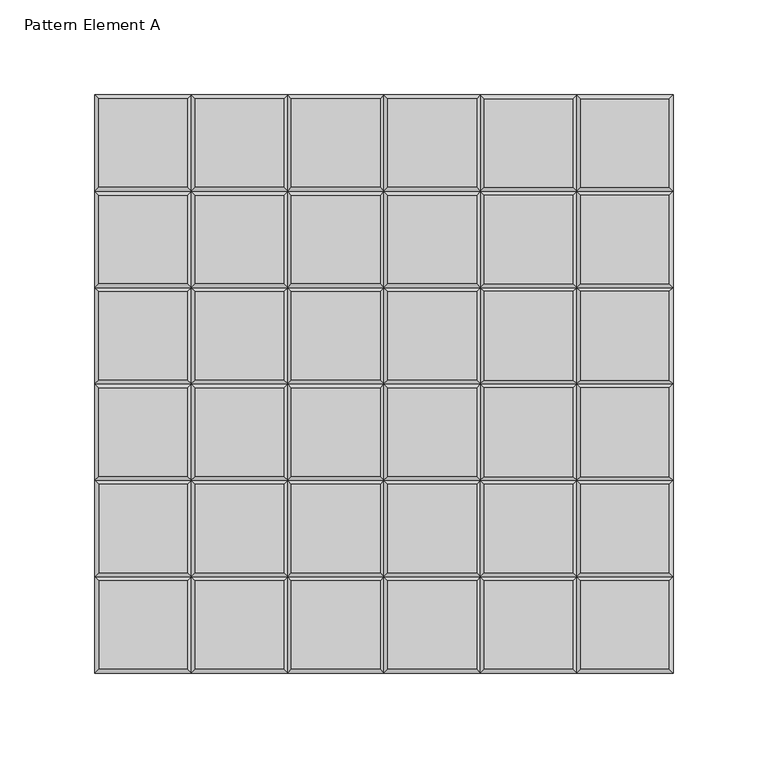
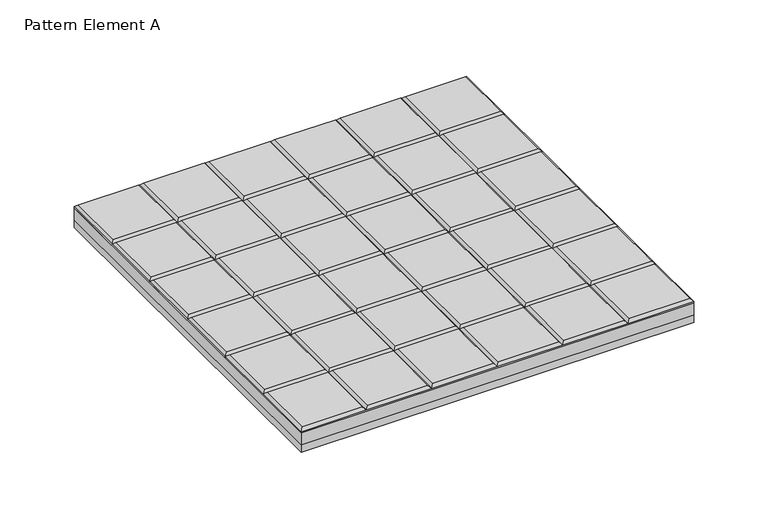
"""IFC4 building model written with IfcOpenShell, lengths in millimetres: proxy geometry, FilzFelt_Waffle_Manufacturing Drawing : Pattern Element A."""

from ifc_helpers import new_model, si_unit, frame, origin, origin_with_axes, place, context, project, spatial, polyline, outline, extrude, faceted_brep, source, transform, mapped, element, save


def pattern_element_a_fabd5e50(model_context):
    return source(origin(), model_context, "Body", "SolidModel", [
        faceted_brep([(-150.4, -48.8, 19.0), (-152.4, -50.8, 17.0), (-101.6, -50.8, 17.0), (-103.6, -48.8, 19.0), (-52.8, -48.8, 19.0), (-99.6, -48.8, 19.0), (-50.8, -50.8, 17.0), (-2.0, -48.8, 19.0), (-48.8, -48.8, 19.0), (0.0, -50.8, 17.0), (48.8, -48.8, 19.0), (2.0, -48.8, 19.0), (50.8, -50.8, 17.0), (-150.4, 2.0, 19.0), (-152.4, 0.0, 17.0), (-101.6, 0.0, 17.0), (-103.6, 2.0, 19.0), (-52.8, 2.0, 19.0), (-99.6, 2.0, 19.0), (-50.8, 0.0, 17.0), (-2.0, 2.0, 19.0), (-48.8, 2.0, 19.0), (0.0, 0.0, 17.0), (48.8, 2.0, 19.0), (2.0, 2.0, 19.0), (50.8, 0.0, 17.0), (-150.4, -2.0, 19.0), (-103.6, -2.0, 19.0), (-99.6, -2.0, 19.0), (-52.8, -2.0, 19.0), (-48.8, -2.0, 19.0), (-2.0, -2.0, 19.0), (2.0, -2.0, 19.0), (48.8, -2.0, 19.0), (-150.4, 52.8, 19.0), (-152.4, 50.8, 17.0), (-101.6, 50.8, 17.0), (-103.6, 52.8, 19.0), (-52.8, 52.8, 19.0), (-99.6, 52.8, 19.0), (-50.8, 50.8, 17.0), (-2.0, 52.8, 19.0), (-48.8, 52.8, 19.0), (0.0, 50.8, 17.0), (48.8, 52.8, 19.0), (2.0, 52.8, 19.0), (50.8, 50.8, 17.0), (-150.4, 48.8, 19.0), (-103.6, 48.8, 19.0), (-99.6, 48.8, 19.0), (-52.8, 48.8, 19.0), (-48.8, 48.8, 19.0), (-2.0, 48.8, 19.0), (2.0, 48.8, 19.0), (48.8, 48.8, 19.0), (-150.4, 103.6, 19.0), (-152.4, 101.6, 17.0), (-101.6, 101.6, 17.0), (-103.6, 103.6, 19.0), (-52.8, 103.6, 19.0), (-99.6, 103.6, 19.0), (-50.8, 101.6, 17.0), (-2.0, 103.6, 19.0), (-48.8, 103.6, 19.0), (0.0, 101.6, 17.0), (48.8, 103.6, 19.0), (2.0, 103.6, 19.0), (50.8, 101.6, 17.0), (-150.4, 99.6, 19.0), (-103.6, 99.6, 19.0), (-99.6, 99.6, 19.0), (-52.8, 99.6, 19.0), (-48.8, 99.6, 19.0), (-2.0, 99.6, 19.0), (2.0, 99.6, 19.0), (48.8, 99.6, 19.0), (-52.8, 150.4, 19.0), (-99.6, 150.4, 19.0), (-2.0, 150.4, 19.0), (-48.8, 150.4, 19.0), (48.8, 150.4, 19.0), (2.0, 150.4, 19.0), (-150.4, 150.4, 19.0), (-103.6, 150.4, 19.0), (50.8, 152.4, 16.0), (50.8, -50.8, 16.0), (-152.4, -50.8, 16.0), (-152.4, 152.4, 16.0), (50.8, 152.4, 17.0), (-152.4, 152.4, 17.0), (-101.6, 152.4, 17.0), (-50.8, 152.4, 17.0), (0.0, 152.4, 17.0)], [[[0, 1, 2, 3]], [[4, 5, 2, 6]], [[7, 8, 6, 9]], [[10, 11, 9, 12]], [[13, 14, 15, 16]], [[17, 18, 15, 19]], [[20, 21, 19, 22]], [[23, 24, 22, 25]], [[14, 26, 27, 15]], [[28, 29, 19, 15]], [[30, 31, 22, 19]], [[32, 33, 25, 22]], [[34, 35, 36, 37]], [[38, 39, 36, 40]], [[41, 42, 40, 43]], [[44, 45, 43, 46]], [[35, 47, 48, 36]], [[49, 50, 40, 36]], [[51, 52, 43, 40]], [[53, 54, 46, 43]], [[55, 56, 57, 58]], [[59, 60, 57, 61]], [[62, 63, 61, 64]], [[65, 66, 64, 67]], [[56, 68, 69, 57]], [[70, 71, 61, 57]], [[72, 73, 64, 61]], [[74, 75, 67, 64]], [[29, 28, 5, 4]], [[31, 30, 8, 7]], [[33, 32, 11, 10]], [[50, 49, 18, 17]], [[52, 51, 21, 20]], [[54, 53, 24, 23]], [[60, 59, 76, 77]], [[63, 62, 78, 79]], [[66, 65, 80, 81]], [[71, 70, 39, 38]], [[73, 72, 42, 41]], [[75, 74, 45, 44]], [[82, 55, 58, 83]], [[26, 0, 3, 27]], [[47, 13, 16, 48]], [[68, 34, 37, 69]], [[84, 85, 86, 87]], [[85, 84, 88, 67, 46, 25, 12]], [[86, 85, 12, 9, 6, 2, 1]], [[87, 86, 1, 14, 35, 56, 89]], [[84, 87, 89, 90, 91, 92, 88]], [[0, 26, 14, 1]], [[13, 47, 35, 14]], [[34, 68, 56, 35]], [[82, 89, 56, 55]], [[77, 76, 91, 90]], [[79, 78, 92, 91]], [[81, 80, 88, 92]], [[89, 82, 83, 90]], [[15, 2, 5, 28]], [[36, 15, 18, 49]], [[90, 57, 60, 77]], [[57, 36, 39, 70]], [[2, 15, 27, 3]], [[15, 36, 48, 16]], [[57, 90, 83, 58]], [[36, 57, 69, 37]], [[19, 6, 8, 30]], [[40, 19, 21, 51]], [[91, 61, 63, 79]], [[61, 40, 42, 72]], [[6, 19, 29, 4]], [[19, 40, 50, 17]], [[61, 91, 76, 59]], [[40, 61, 71, 38]], [[22, 9, 11, 32]], [[43, 22, 24, 53]], [[92, 64, 66, 81]], [[64, 43, 45, 74]], [[9, 22, 31, 7]], [[22, 43, 52, 20]], [[64, 92, 78, 62]], [[43, 64, 73, 41]], [[33, 10, 12, 25]], [[54, 23, 25, 46]], [[75, 44, 46, 67]], [[80, 65, 67, 88]]]),
        faceted_brep([(150.4, -150.4, 19.0), (152.4, -152.4, 17.0), (152.4, -101.6, 17.0), (150.4, -103.6, 19.0), (152.4, 152.4, 17.0), (150.4, 150.4, 19.0), (150.4, 103.6, 19.0), (152.4, 101.6, 17.0), (150.4, -52.8, 19.0), (150.4, -99.6, 19.0), (152.4, -50.8, 17.0), (150.4, -2.0, 19.0), (150.4, -48.8, 19.0), (152.4, 0.0, 17.0), (150.4, 48.8, 19.0), (150.4, 2.0, 19.0), (152.4, 50.8, 17.0), (150.4, 99.6, 19.0), (150.4, 52.8, 19.0), (103.6, -150.4, 19.0), (101.6, -152.4, 17.0), (-150.4, -150.4, 19.0), (-152.4, -152.4, 17.0), (-101.6, -152.4, 17.0), (-103.6, -150.4, 19.0), (-52.8, -150.4, 19.0), (-99.6, -150.4, 19.0), (-50.8, -152.4, 17.0), (-2.0, -150.4, 19.0), (-48.8, -150.4, 19.0), (0.0, -152.4, 17.0), (48.8, -150.4, 19.0), (2.0, -150.4, 19.0), (50.8, -152.4, 17.0), (99.6, -150.4, 19.0), (52.8, -150.4, 19.0), (-150.4, -103.6, 19.0), (-152.4, -101.6, 17.0), (-150.4, -99.6, 19.0), (-150.4, -52.8, 19.0), (-152.4, -50.8, 17.0), (101.6, 152.4, 17.0), (103.6, 150.4, 19.0), (52.8, 150.4, 19.0), (99.6, 150.4, 19.0), (50.8, 152.4, 17.0), (103.6, -103.6, 19.0), (103.6, 103.6, 19.0), (103.6, -52.8, 19.0), (103.6, -99.6, 19.0), (103.6, -2.0, 19.0), (103.6, -48.8, 19.0), (103.6, 48.8, 19.0), (103.6, 2.0, 19.0), (103.6, 99.6, 19.0), (103.6, 52.8, 19.0), (-52.8, -103.6, 19.0), (-99.6, -103.6, 19.0), (-2.0, -103.6, 19.0), (-48.8, -103.6, 19.0), (48.8, -103.6, 19.0), (2.0, -103.6, 19.0), (99.6, -103.6, 19.0), (52.8, -103.6, 19.0), (-103.6, -103.6, 19.0), (-103.6, -99.6, 19.0), (-103.6, -52.8, 19.0), (52.8, 103.6, 19.0), (99.6, 103.6, 19.0), (52.8, -48.8, 19.0), (99.6, -48.8, 19.0), (99.6, -2.0, 19.0), (52.8, -2.0, 19.0), (52.8, 2.0, 19.0), (99.6, 2.0, 19.0), (99.6, 48.8, 19.0), (52.8, 48.8, 19.0), (52.8, 52.8, 19.0), (99.6, 52.8, 19.0), (99.6, 99.6, 19.0), (52.8, 99.6, 19.0), (-99.6, -99.6, 19.0), (-52.8, -99.6, 19.0), (-52.8, -52.8, 19.0), (-99.6, -52.8, 19.0), (-48.8, -99.6, 19.0), (-2.0, -99.6, 19.0), (-2.0, -52.8, 19.0), (-48.8, -52.8, 19.0), (2.0, -99.6, 19.0), (48.8, -99.6, 19.0), (48.8, -52.8, 19.0), (2.0, -52.8, 19.0), (52.8, -99.6, 19.0), (99.6, -99.6, 19.0), (99.6, -52.8, 19.0), (52.8, -52.8, 19.0), (50.8, 152.4, 16.0), (152.4, 152.4, 16.0), (152.4, -152.4, 16.0), (-152.4, -152.4, 16.0), (-152.4, -50.8, 16.0), (50.8, -50.8, 16.0), (-101.6, -50.8, 17.0), (-50.8, -50.8, 17.0), (0.0, -50.8, 17.0), (50.8, -50.8, 17.0), (50.8, 0.0, 17.0), (50.8, 50.8, 17.0), (50.8, 101.6, 17.0), (101.6, -101.6, 17.0), (-101.6, -101.6, 17.0), (-50.8, -101.6, 17.0), (0.0, -101.6, 17.0), (50.8, -101.6, 17.0), (101.6, -50.8, 17.0), (101.6, 0.0, 17.0), (101.6, 50.8, 17.0), (101.6, 101.6, 17.0)], [[[0, 1, 2, 3]], [[4, 5, 6, 7]], [[8, 9, 2, 10]], [[11, 12, 10, 13]], [[14, 15, 13, 16]], [[17, 18, 16, 7]], [[1, 0, 19, 20]], [[21, 22, 23, 24]], [[25, 26, 23, 27]], [[28, 29, 27, 30]], [[31, 32, 30, 33]], [[34, 35, 33, 20]], [[22, 21, 36, 37]], [[38, 39, 40, 37]], [[5, 4, 41, 42]], [[43, 44, 41, 45]], [[0, 3, 46, 19]], [[6, 5, 42, 47]], [[9, 8, 48, 49]], [[12, 11, 50, 51]], [[15, 14, 52, 53]], [[18, 17, 54, 55]], [[26, 25, 56, 57]], [[29, 28, 58, 59]], [[32, 31, 60, 61]], [[35, 34, 62, 63]], [[36, 21, 24, 64]], [[39, 38, 65, 66]], [[44, 43, 67, 68]], [[69, 70, 71, 72]], [[73, 74, 75, 76]], [[77, 78, 79, 80]], [[81, 82, 83, 84]], [[85, 86, 87, 88]], [[89, 90, 91, 92]], [[93, 94, 95, 96]], [[97, 98, 99, 100, 101, 102]], [[98, 97, 45, 41, 4]], [[99, 98, 4, 7, 16, 13, 10, 2, 1]], [[100, 99, 1, 20, 33, 30, 27, 23, 22]], [[101, 100, 22, 37, 40]], [[102, 101, 40, 103, 104, 105, 106]], [[97, 102, 106, 107, 108, 109, 45]], [[2, 9, 49, 110]], [[38, 37, 111, 65]], [[82, 81, 111, 112]], [[86, 85, 112, 113]], [[90, 89, 113, 114]], [[94, 93, 114, 110]], [[3, 2, 110, 46]], [[37, 36, 64, 111]], [[57, 56, 112, 111]], [[59, 58, 113, 112]], [[61, 60, 114, 113]], [[63, 62, 110, 114]], [[10, 12, 51, 115]], [[70, 69, 106, 115]], [[8, 10, 115, 48]], [[40, 39, 66, 103]], [[84, 83, 104, 103]], [[88, 87, 105, 104]], [[92, 91, 106, 105]], [[96, 95, 115, 106]], [[13, 15, 53, 116]], [[74, 73, 107, 116]], [[11, 13, 116, 50]], [[72, 71, 116, 107]], [[16, 18, 55, 117]], [[78, 77, 108, 117]], [[14, 16, 117, 52]], [[76, 75, 117, 108]], [[7, 6, 47, 118]], [[68, 67, 109, 118]], [[17, 7, 118, 54]], [[80, 79, 118, 109]], [[103, 111, 81, 84]], [[111, 23, 26, 57]], [[111, 103, 66, 65]], [[23, 111, 64, 24]], [[104, 112, 85, 88]], [[112, 27, 29, 59]], [[112, 104, 83, 82]], [[27, 112, 56, 25]], [[105, 113, 89, 92]], [[113, 30, 32, 61]], [[113, 105, 87, 86]], [[30, 113, 58, 28]], [[67, 43, 45, 109]], [[69, 72, 107, 106]], [[73, 76, 108, 107]], [[77, 80, 109, 108]], [[106, 114, 93, 96]], [[114, 33, 35, 63]], [[114, 106, 91, 90]], [[33, 114, 60, 31]], [[110, 20, 19, 46]], [[115, 110, 49, 48]], [[116, 115, 51, 50]], [[117, 116, 53, 52]], [[41, 118, 47, 42]], [[118, 117, 55, 54]], [[20, 110, 62, 34]], [[110, 115, 95, 94]], [[115, 116, 71, 70]], [[116, 117, 75, 74]], [[118, 41, 44, 68]], [[117, 118, 79, 78]]]),
        extrude(outline(polyline([(-152.4, -152.4), (-152.4, 152.4), (152.4, 152.4), (152.4, -152.4), (-152.4, -152.4)])), frame((0.0, 0.0, 6.0), z_axis=(0.0, 0.0, 1.0), x_axis=(1.0, 0.0, 0.0)), (0.0, 0.0, 1.0), 10.0),
        extrude(outline(polyline([(152.4, 152.4), (152.4, -152.4), (-152.4, -152.4), (-152.4, 152.4), (152.4, 152.4)])), origin_with_axes(), (0.0, 0.0, 1.0), 6.0),
    ])


if __name__ == "__main__":
    model = new_model("IFC4")
    model_context = context("Model", 3, world=origin())
    ifc_project = project(units=[si_unit("LENGTHUNIT", "METRE", prefix="MILLI")], contexts=[model_context])
    site = spatial("IfcSite", under=ifc_project)
    building = spatial("IfcBuilding", under=site)
    placement = place(None, origin())
    pattern_element_a_shape = pattern_element_a_fabd5e50(model_context)
    element("IfcBuildingElementProxy", 1, Name="FilzFelt_Waffle_Manufacturing Drawing : Pattern Element A", ObjectType="FilzFelt_Waffle_Manufacturing Drawing : Pattern Element A", at=placement, inside=building, context=model_context, shape_type="MappedRepresentation", body=[
        mapped(pattern_element_a_shape, transform((0.0, 0.0, 0.0), x_axis=(1.0, 0.0, 0.0), y_axis=(0.0, 1.0, 0.0), z_axis=(0.0, 0.0, 1.0))),
    ])
    save(model, "model.ifc")
